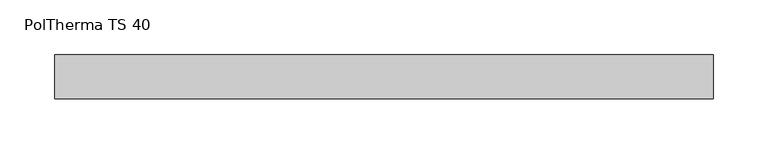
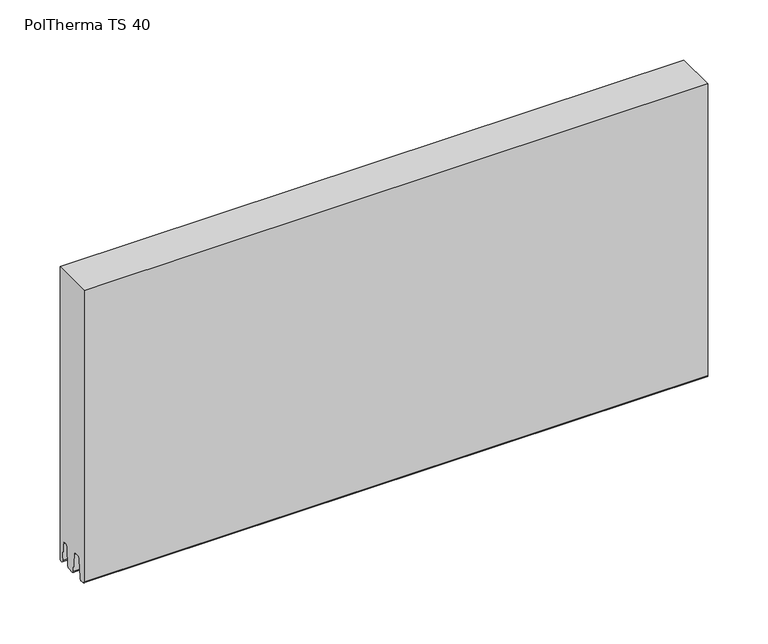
"""IFC4 building model written with IfcOpenShell, lengths in millimetres: plate geometry, Europanels_Poltherma TS_Hz : PolTherma TS 40."""

import ifcopenshell
import ifcopenshell.guid

model = None  # the IFC model being written
_history = None  # IfcOwnerHistory: only IFC2X3 demands one
_inside = {}  # id of a spatial element -> (the spatial element, [elements in it])
_under = {}  # id of a project, library or spatial element -> (it, [spatial elements below it])
_declared = {}  # id of a project -> (the project, [libraries it declares])
_typed = {}  # id of a type object -> (the type object, [elements of that type])
_made_of = {}  # id of a material, layer set ... -> (it, [elements and type objects made of it])


def new_model(schema):
    """Start an empty IFC model of exactly this schema.

    Asked for "IFC4X3", IfcOpenShell would pick the latest addendum, in which some entities
    have other attributes; the version numbers below select the first issue.
    IFC2X3 requires an IfcOwnerHistory on every rooted entity: one is made here for all.
    """
    global model, _history
    if schema == "IFC4X3":
        model = ifcopenshell.file(schema_version=(4, 3, 0, 0))
    else:
        model = ifcopenshell.file(schema=schema)
    _inside.clear()
    _under.clear()
    _declared.clear()
    _typed.clear()
    _made_of.clear()
    _history = None
    if model.schema == "IFC2X3":
        org = make("IfcOrganization", Name="unknown")
        user = make(
            "IfcPersonAndOrganization",
            ThePerson=make("IfcPerson", FamilyName="unknown"),
            TheOrganization=org,
        )
        app = make(
            "IfcApplication",
            ApplicationDeveloper=org,
            Version="unknown",
            ApplicationFullName="unknown",
            ApplicationIdentifier="unknown",
        )
        _history = make(
            "IfcOwnerHistory",
            OwningUser=user,
            OwningApplication=app,
            ChangeAction="ADDED",
            CreationDate=0,
        )
    return model


def make(cls, **values):
    """One entity of the class cls with the attributes given. An attribute that is None is left unset."""
    return model.create_entity(
        cls, **{name: value for name, value in values.items() if value is not None}
    )


def rooted(cls, **values):
    """An entity with a GlobalId (a new one), such as an element, a storey or a relation."""
    return make(cls, GlobalId=ifcopenshell.guid.new(), OwnerHistory=_history, **values)


def si_unit(unit_type, name, prefix=None):
    """IfcSIUnit, for example si_unit("LENGTHUNIT", "METRE", prefix="MILLI")."""
    return make("IfcSIUnit", UnitType=unit_type, Prefix=prefix, Name=name)


def assignment(units):
    """IfcUnitAssignment: the units of a project."""
    return None if units is None else make("IfcUnitAssignment", Units=units)


def point(xyz):
    """IfcCartesianPoint."""
    return None if xyz is None else make("IfcCartesianPoint", Coordinates=xyz)


def direction(xyz):
    """IfcDirection."""
    return None if xyz is None else make("IfcDirection", DirectionRatios=xyz)


def frame(location, z_axis=None, x_axis=None):
    """IfcAxis2Placement3D, a coordinate frame: its origin and axes. An axis left out is left unset."""
    return make(
        "IfcAxis2Placement3D",
        Location=point(location),
        Axis=direction(z_axis),
        RefDirection=direction(x_axis),
    )


def frame_2d(location, x_axis=None):
    """IfcAxis2Placement2D, a coordinate frame in the plane: its origin and x axis."""
    return make(
        "IfcAxis2Placement2D", Location=point(location), RefDirection=direction(x_axis)
    )


def origin():
    """The frame at (0, 0, 0) with its axes left unset."""
    return frame((0.0, 0.0, 0.0))


def place(relative_to, where):
    """IfcLocalPlacement: puts the frame where relative to a parent placement (None: the world)."""
    return make(
        "IfcLocalPlacement", PlacementRelTo=relative_to, RelativePlacement=where
    )


def context(
    kind, dimensions, precision=None, world=None, true_north=None, identifier=None
):
    """IfcGeometricRepresentationContext, for example the 3D "Model" context."""
    return make(
        "IfcGeometricRepresentationContext",
        ContextIdentifier=identifier,
        ContextType=kind,
        CoordinateSpaceDimension=dimensions,
        Precision=precision,
        WorldCoordinateSystem=world,
        TrueNorth=true_north,
    )


def project(units=None, contexts=None):
    """IfcProject with its units and contexts."""
    return rooted(
        "IfcProject",
        Name="project",
        RepresentationContexts=contexts,
        UnitsInContext=assignment(units),
    )


def spatial(cls, under=None, at=None, **own):
    """A site, building, storey or space (cls), placed at a placement, below another one or the project."""
    s = rooted(cls, ObjectPlacement=at, **own)
    if under is not None:
        _under.setdefault(under.id(), (under, []))[1].append(s)
    return s


def polyline(points):
    """IfcPolyline through the points."""
    return make("IfcPolyline", Points=[point(p) for p in points])


def circle_curve(where, radius):
    """IfcCircle in the frame where."""
    return make("IfcCircle", Position=where, Radius=radius)


def trimmed(basis, trim1, trim2, sense, master):
    """IfcTrimmedCurve: the piece of a basis curve between two trims."""
    return make(
        "IfcTrimmedCurve",
        BasisCurve=basis,
        Trim1=trim1,
        Trim2=trim2,
        SenseAgreement=sense,
        MasterRepresentation=master,
    )


def segment(curve, same_sense, transition):
    """IfcCompositeCurveSegment."""
    return make(
        "IfcCompositeCurveSegment",
        Transition=transition,
        SameSense=same_sense,
        ParentCurve=curve,
    )


def composite_curve(segments, self_intersect=None):
    """IfcCompositeCurve: segments joined end to end."""
    return make("IfcCompositeCurve", Segments=segments, SelfIntersect=self_intersect)


def outline(outer, holes=None, kind="AREA"):
    """IfcArbitraryClosedProfileDef: a profile drawn as a closed curve; with holes, ...WithVoids."""
    if holes is None:
        return make("IfcArbitraryClosedProfileDef", ProfileType=kind, OuterCurve=outer)
    return make(
        "IfcArbitraryProfileDefWithVoids",
        ProfileType=kind,
        OuterCurve=outer,
        InnerCurves=holes,
    )


def extrude(swept, where, along, depth):
    """IfcExtrudedAreaSolid: the profile swept, set in the frame where, extruded along a direction by depth."""
    return make(
        "IfcExtrudedAreaSolid",
        SweptArea=swept,
        Position=where,
        ExtrudedDirection=direction(along),
        Depth=depth,
    )


def shape(context_of_items, identifier, shape_type, items):
    """IfcShapeRepresentation: the items that make up one representation, for example the "Body"."""
    return make(
        "IfcShapeRepresentation",
        ContextOfItems=context_of_items,
        RepresentationIdentifier=identifier,
        RepresentationType=shape_type,
        Items=items,
    )


def source(mapping_origin, context_of_items, identifier, shape_type, items):
    """IfcRepresentationMap: a shape defined once, which mapped items show again and again."""
    return make(
        "IfcRepresentationMap",
        MappingOrigin=mapping_origin,
        MappedRepresentation=shape(context_of_items, identifier, shape_type, items),
    )


def transform(
    local_origin,
    x_axis=None,
    y_axis=None,
    z_axis=None,
    scale=None,
    scale2=None,
    scale3=None,
    uniform=True,
):
    """IfcCartesianTransformationOperator3D, or its non-uniform kind. x_axis, y_axis, z_axis: its Axis1, 2, 3."""
    if uniform:
        return make(
            "IfcCartesianTransformationOperator3D",
            Axis1=direction(x_axis),
            Axis2=direction(y_axis),
            LocalOrigin=point(local_origin),
            Scale=scale,
            Axis3=direction(z_axis),
        )
    return make(
        "IfcCartesianTransformationOperator3DnonUniform",
        Axis1=direction(x_axis),
        Axis2=direction(y_axis),
        LocalOrigin=point(local_origin),
        Scale=scale,
        Axis3=direction(z_axis),
        Scale2=scale2,
        Scale3=scale3,
    )


def mapped(mapping_source, mapping_target):
    """IfcMappedItem: shows the shape of a source again, moved by a transform."""
    return make(
        "IfcMappedItem", MappingSource=mapping_source, MappingTarget=mapping_target
    )


def made_of(thing, what):
    """Note that an element or type object is made of a material, layer set ...; save() writes the relation."""
    if what is not None:
        _made_of.setdefault(what.id(), (what, []))[1].append(thing)
    return thing


def element(
    cls,
    number,
    at=None,
    inside=None,
    cuts=None,
    type_object=None,
    material=None,
    context=None,
    identifier="Body",
    shape_type=None,
    held_by="IfcProductDefinitionShape",
    body=None,
    shapes=None,
    **own,
):
    """One element of the class cls, such as IfcWall. Its Tag is "e" and its number.

    at: its placement. inside: the storey or other place that contains it. cuts: it is an
    opening in that element (IfcRelVoidsElement). A single representation is given by context,
    identifier, shape_type and body (its items); several are given by shapes. held_by: the class
    of the entity that holds the representations. save() writes the other relations.
    """
    e = rooted(cls, Tag="e%d" % number, ObjectPlacement=at, **own)
    if body is not None:
        shapes = [shape(context, identifier, shape_type, body)]
    if shapes is not None:
        e.Representation = make(held_by, Representations=shapes)
    if inside is not None:
        _inside.setdefault(inside.id(), (inside, []))[1].append(e)
    if cuts is not None:
        rooted(
            "IfcRelVoidsElement", RelatingBuildingElement=cuts, RelatedOpeningElement=e
        )
    if type_object is not None:
        _typed.setdefault(type_object.id(), (type_object, []))[1].append(e)
    return made_of(e, material)


def aggregate(whole, parts):
    """IfcRelAggregates: a whole, such as a stair, and the parts it consists of."""
    return rooted("IfcRelAggregates", RelatingObject=whole, RelatedObjects=parts)


def save(model, path):
    """Write the relations noted so far, then the file.

    IfcRelAggregates (storeys below a building ...), IfcRelContainedInSpatialStructure (elements
    in a storey), IfcRelDefinesByType, IfcRelAssociatesMaterial and IfcRelDeclares: one each for
    every whole, place, type object, material and project.
    """
    for whole, parts in _under.values():
        aggregate(whole, parts)
    for where, things in _inside.values():
        rooted(
            "IfcRelContainedInSpatialStructure",
            RelatedElements=things,
            RelatingStructure=where,
        )
    for kind, things in _typed.values():
        rooted("IfcRelDefinesByType", RelatedObjects=things, RelatingType=kind)
    for what, things in _made_of.values():
        rooted("IfcRelAssociatesMaterial", RelatedObjects=things, RelatingMaterial=what)
    for by, libraries in _declared.values():
        rooted("IfcRelDeclares", RelatingContext=by, RelatedDefinitions=libraries)
    model.write(path)


def poltherma_ts_40_0c37c41d(model_context):
    return source(origin(), model_context, "Body", "SweptSolid", [
        extrude(outline(composite_curve([segment(polyline([(-20.0, 300.0), (20.0, 300.0), (20.0, 3.8074585)]), True, "CONTINUOUS"), segment(trimmed(circle_curve(frame_2d((17.6334587, 3.8074585)), 2.3665413), [point((20.0, 3.8074585))], [point((15.2703732, 3.6796133))], False, "CARTESIAN"), True, "CONTINUOUS"), segment(polyline([(15.2703732, 3.6796133), (14.3268153, 21.1203008)]), True, "CONTINUOUS"), segment(trimmed(circle_curve(frame_2d((11.0497759, 20.9430098)), 3.2818316), [point((14.3268153, 21.1203008))], [point((7.7733842, 21.1318916))], True, "CARTESIAN"), True, "CONTINUOUS"), segment(polyline([(7.7733842, 21.1318916), (6.7366349, 3.1481762)]), True, "CONTINUOUS"), segment(trimmed(circle_curve(frame_2d((4.9895357, 3.2488953)), 1.75), [point((6.7366349, 3.1481762))], [point((4.9895357, 1.4988953))], False, "CARTESIAN"), True, "CONTINUOUS"), segment(polyline([(4.9895357, 1.4988953), (-0.5507777, 1.4988953)]), True, "CONTINUOUS"), segment(trimmed(circle_curve(frame_2d((-0.5507777, 3.2988953)), 1.8), [point((-0.5507777, 1.4988953))], [point((-2.3477941, 3.1952985))], False, "CARTESIAN"), True, "CONTINUOUS"), segment(polyline([(-2.3477941, 3.1952985), (-3.3842966, 21.1747334)]), True, "CONTINUOUS"), segment(trimmed(circle_curve(frame_2d((-6.3793238, 21.0020721)), 3.0), [point((-3.3842966, 21.1747334))], [point((-6.3793238, 24.0020721))], True, "CARTESIAN"), True, "CONTINUOUS"), segment(polyline([(-6.3793238, 24.0020721), (-9.3209015, 24.0020721)]), True, "CONTINUOUS"), segment(trimmed(circle_curve(frame_2d((-9.3209015, 21.0020721)), 3.0), [point((-9.3209015, 24.0020721))], [point((-12.3165207, 21.1641379))], True, "CARTESIAN"), True, "CONTINUOUS"), segment(polyline([(-12.3165207, 21.1641379), (-13.2780726, 3.3908514)]), True, "CONTINUOUS"), segment(trimmed(circle_curve(frame_2d((-15.2751521, 3.4988953)), 2.0), [point((-13.2780726, 3.3908514))], [point((-15.2751521, 1.4988953))], False, "CARTESIAN"), True, "CONTINUOUS"), segment(polyline([(-15.2751521, 1.4988953), (-18.0, 1.4988953)]), True, "CONTINUOUS"), segment(trimmed(circle_curve(frame_2d((-18.0, 3.4988953)), 2.0), [point((-18.0, 1.4988953))], [point((-20.0, 3.4988953))], False, "CARTESIAN"), True, "CONTINUOUS"), segment(polyline([(-20.0, 3.4988953), (-20.0, 300.0)]), True, "CONTINUOUS")], self_intersect=False)), frame((-300.0, 0.0, 0.0), z_axis=(1.0, 0.0, 0.0), x_axis=(0.0, 1.0, 0.0)), (0.0, 0.0, 1.0), 600.0),
    ])


if __name__ == "__main__":
    model = new_model("IFC4")
    model_context = context("Model", 3, world=origin())
    ifc_project = project(units=[si_unit("LENGTHUNIT", "METRE", prefix="MILLI")], contexts=[model_context])
    site = spatial("IfcSite", under=ifc_project)
    building = spatial("IfcBuilding", under=site)
    placement = place(None, origin())
    poltherma_ts_40_shape = poltherma_ts_40_0c37c41d(model_context)
    element("IfcPlate", 1, ObjectType="Europanels_Poltherma TS_Hz : PolTherma TS 40", at=placement, inside=building, context=model_context, shape_type="MappedRepresentation", body=[
        mapped(poltherma_ts_40_shape, transform((0.0, 0.0, 0.0), x_axis=(1.0, 0.0, 0.0), y_axis=(0.0, 1.0, 0.0), z_axis=(0.0, 0.0, 1.0))),
    ])
    save(model, "model.ifc")
